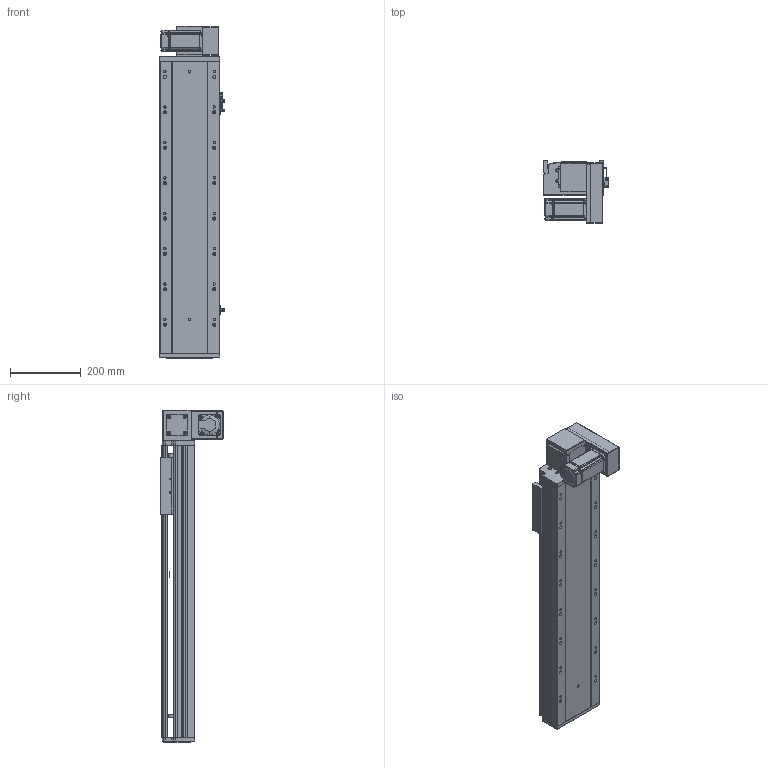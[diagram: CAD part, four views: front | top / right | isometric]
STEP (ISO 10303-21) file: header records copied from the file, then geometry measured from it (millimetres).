
FILE_DESCRIPTION (( 'STEP AP203' ), '1' );
FILE_NAME ('RY170-T-300-DR-P400W.SLDASM_550.step', '2021-03-01T08:22:54', ( '盈信电脑' ), ( '东莞市道滘镇水果街19号' ), 'SwSTEP 2.0', 'SolidWorks 2012', '' );
FILE_SCHEMA (( 'CONFIG_CONTROL_DESIGN' ));
Length unit declared in the file: millimetre
Products named in the file (19): RY170-T-呴雄粣揤踡啣; 滅袉蝶18-10; RY170-T-300-DR-P400W.SLDASM_550; 15; RY170-T蹟翐M4; RY170-T肮祭謫裔啣; RY120-T主同步轮轴承压盖; RY170-T肮祭湍揤踡輸1; RY170同步轮电机安装板(400W); RY170-T肮祭湍揤踡輸2; RY170肮祭謫萇儂欶; RY170外置感应片(200共用）; RY170翋肮祭謫釱; RY170肮祭謫ヶ裔啣; 覜茼ん672; RY170-T-300肮祭謫倰第裔啣-DR_550; RY170綴裔啣; RY170-T-300肮祭謫倰第菁釱-DR_550; RY170肮祭湍臏賑輸
Assembly tree (23 placements, depth 2):
  RY170-T-300-DR-P400W.SLDASM_550
    RY170-T-300肮祭謫倰第菁釱-DR_550
    RY170肮祭湍臏賑輸
    RY170-T-300肮祭謫倰第裔啣-DR_550
    RY170綴裔啣
    覜茼ん672  x3
    RY170外置感应片(200共用）
    RY170肮祭謫ヶ裔啣
    RY170翋肮祭謫釱
    RY170同步轮电机安装板(400W)
    RY170肮祭謫萇儂欶
    RY170-T肮祭湍揤踡輸1  x2
    RY170-T肮祭湍揤踡輸2  x2
    RY120-T主同步轮轴承压盖
    RY170-T肮祭謫裔啣
    RY170-T蹟翐M4
    滅袉蝶18-10  x2
    RY170-T-呴雄粣揤踡啣
    15
Bounding box: 183.7 x 178 x 938 mm (x, y, z)
Volume: 5028317.8 mm3; surface area: 1682675.5 mm2
Topology: 23 solids, 23 shells, 2718 faces, 7566 edges, 4879 vertices
Faces by surface type: plane 1266, cylinder 1214, cone 208, bspline 30
Entity records: 81493 total; most frequent: CARTESIAN_POINT 18264, ORIENTED_EDGE 12896, DIRECTION 12618, EDGE_CURVE 6448, AXIS2_PLACEMENT_3D 4423, VERTEX_POINT 4235, VECTOR 3772, LINE 3772
